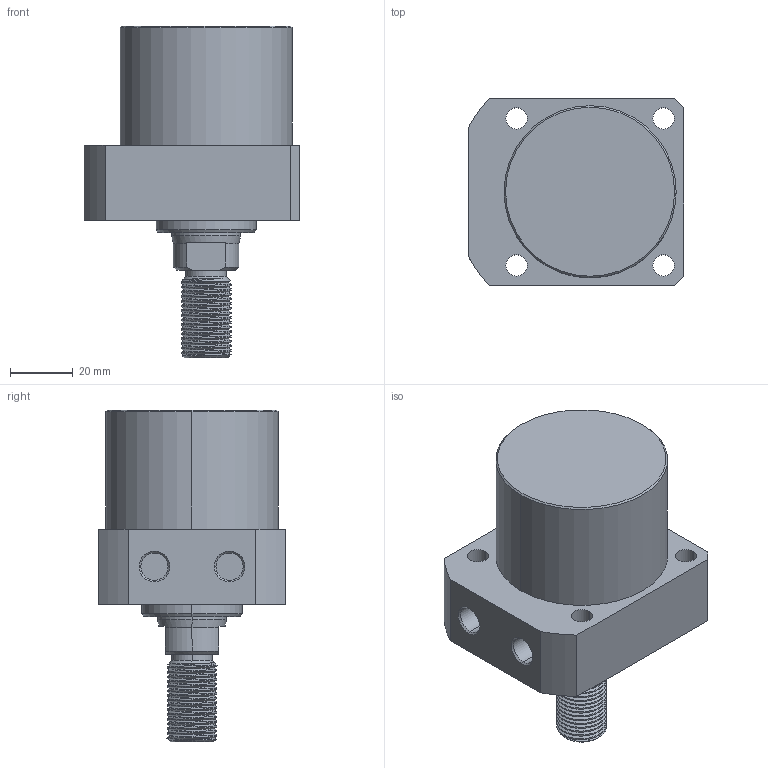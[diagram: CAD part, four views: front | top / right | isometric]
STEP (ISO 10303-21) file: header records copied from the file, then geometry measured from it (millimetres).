
FILE_DESCRIPTION (( 'STEP AP214' ), '1' );
FILE_NAME ('CLLR-055CT-025.STEP', '2020-01-09T00:17:24', ( 'Windows' ), ( 'Microsoft' ), 'SwSTEP 2.0', 'SolidWorks 2015', '' );
FILE_SCHEMA (( 'AUTOMOTIVE_DESIGN' ));
Length unit declared in the file: millimetre
Products named in the file (1): CLLR-055CT-025
Bounding box: 69 x 60 x 106 mm (x, y, z)
Volume: 194682.8 mm3; surface area: 26472.7 mm2
Topology: 1 solids, 1 shells, 102 faces, 262 edges, 170 vertices
Faces by surface type: cylinder 62, plane 20, cone 18, bspline 2
Entity records: 5041 total; most frequent: CARTESIAN_POINT 2674, ORIENTED_EDGE 524, DIRECTION 459, EDGE_CURVE 262, AXIS2_PLACEMENT_3D 179, VERTEX_POINT 170, EDGE_LOOP 118, FACE_OUTER_BOUND 102
